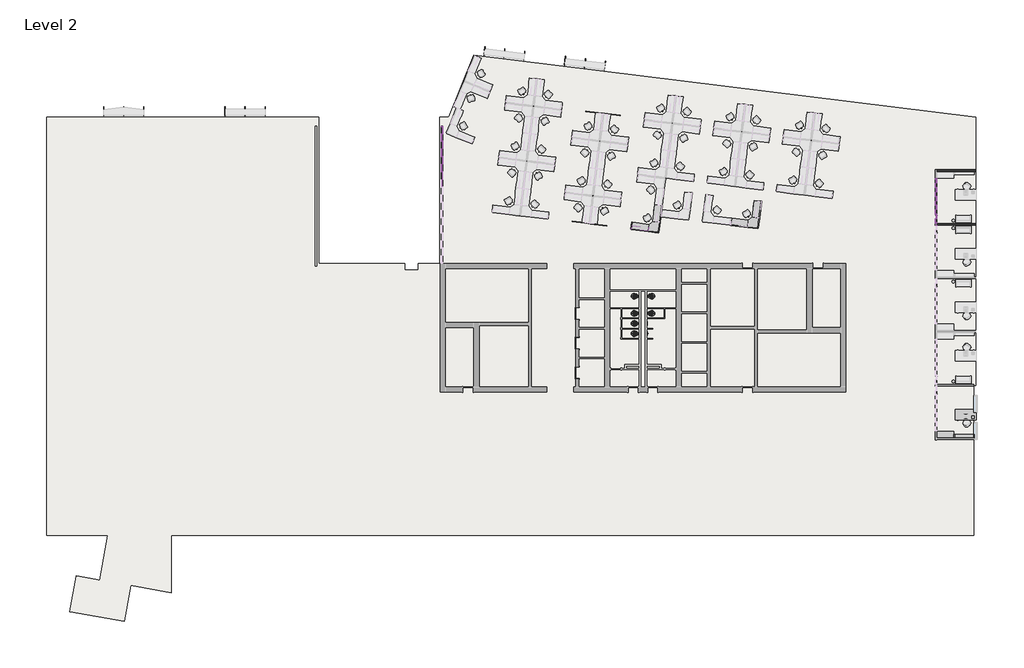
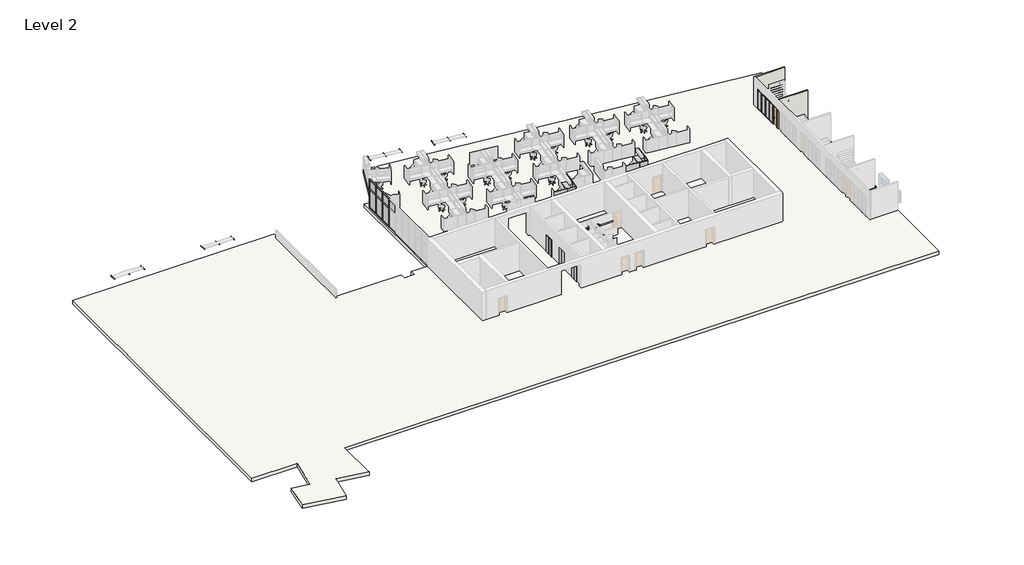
# One storey, part 4 of 7: 46 members, 16 plates, 12 beams, 8 flow terminals, 6 furniture elements, 3 proxies, 3 walls, 1 door, 1 slab.
"""IFC4 building model written with IfcOpenShell, lengths in millimetres."""

from ifc_helpers import new_model, si_unit, frame, origin, place, context, project, spatial, polyline, outline, extrude, faceted_brep, transform, mapped, element, save
from components import support_member_fadda9f7, support_member_90e03ff0, proxy_7fed659c, curtain_wall_sgl_glass_curtain_wall_sgl_glass_5192a5a3, flow_terminal_184afdea, flow_terminal_4365df9b, urinal_wall_3d_urinal_wall_3d_30f61b9e, furniture_894c625b, furniture_91cd4dc0, overhead_shelving_module_overhead_shelving_module_7dcda1b9, furniture_6d145fab, furniture_7b33082a, member_9597caa3, member_b2bde9e6, member_ee409385, member_7ffbafd8, member_47ea2df9, member_5507c937, member_0e55f5ff, member_6d48148e, member_7899ddbe, member_c64c2408, member_866a01fa, member_fbf8c6f0, member_13474e0d, member_d7472725, system_panel_glazed_f9de1280, system_panel_glazed_6896c6c0, system_panel_glazed_7f340023, system_panel_glazed_f79f5f4b, system_panel_glazed_02b69887, system_panel_glazed_e5c5d69c

model = new_model("IFC4")

# Units and contexts
model_context = context("Model", 3, world=origin())
ifc_project = project(units=[si_unit("LENGTHUNIT", "METRE", prefix="MILLI")], contexts=[model_context])

# Site, building, storey
site = spatial("IfcSite", under=ifc_project)
building = spatial("IfcBuilding", under=site)
storey = spatial("IfcBuildingStorey", under=building, Name="Level 2", Elevation=3657.6)

# Beams
placement = place(None, origin())
support_member_shape = support_member_fadda9f7(model_context)
element("IfcBeam", 1, ObjectType="Support Memeber : Support Member", at=placement, inside=storey, context=model_context, shape_type="MappedRepresentation", body=[
    mapped(support_member_shape, transform((-25691.1266175, 15089.8117514, 4572.0), x_axis=(0.9925461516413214, -0.12186934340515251, 0.0), y_axis=(0.12186934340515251, 0.9925461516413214, 0.0), z_axis=(0.0, 0.0, 1.0))),
])
element("IfcBeam", 2, ObjectType="Support Memeber : Support Member", at=placement, inside=storey, context=model_context, shape_type="MappedRepresentation", body=[
    mapped(support_member_shape, transform((-18430.453009, 14198.3131306, 4572.0), x_axis=(0.9925461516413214, -0.12186934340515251, 0.0), y_axis=(0.12186934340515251, 0.9925461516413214, 0.0), z_axis=(0.0, 0.0, 1.0))),
])
element("IfcBeam", 3, ObjectType="Support Memeber : Support Member", at=placement, inside=storey, context=model_context, shape_type="MappedRepresentation", body=[
    mapped(support_member_shape, transform((-48978.4123649, 10081.2896508, 4572.0), x_axis=(1.0, 0.0, 0.0), y_axis=(0.0, 1.0, 0.0), z_axis=(0.0, 0.0, 1.0))),
])
element("IfcBeam", 4, ObjectType="Support Memeber : Support Member", at=placement, inside=storey, context=model_context, shape_type="MappedRepresentation", body=[
    mapped(support_member_shape, transform((-27486.9048177, 15310.3055892, 4572.0), x_axis=(0.9925461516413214, -0.12186934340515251, 0.0), y_axis=(0.12186934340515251, 0.9925461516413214, 0.0), z_axis=(0.0, 0.0, 1.0))),
])
element("IfcBeam", 5, ObjectType="Support Memeber : Support Member", at=placement, inside=storey, context=model_context, shape_type="MappedRepresentation", body=[
    mapped(support_member_shape, transform((-20226.2312092, 14418.8069684, 4572.0), x_axis=(0.9925461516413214, -0.12186934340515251, 0.0), y_axis=(0.12186934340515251, 0.9925461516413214, 0.0), z_axis=(0.0, 0.0, 1.0))),
])
element("IfcBeam", 6, ObjectType="Support Memeber : Support Member", at=placement, inside=storey, context=model_context, shape_type="MappedRepresentation", body=[
    mapped(support_member_shape, transform((-50787.676546, 10081.2896508, 4572.0), x_axis=(1.0, 0.0, 0.0), y_axis=(0.0, 1.0, 0.0), z_axis=(0.0, 0.0, 1.0))),
])
element("IfcBeam", 7, ObjectType="Support Memeber : Support Member", at=placement, inside=storey, context=model_context, shape_type="MappedRepresentation", body=[
    mapped(support_member_shape, transform((-59903.5873649, 10081.2896508, 4572.0), x_axis=(1.0, 0.0, 0.0), y_axis=(0.0, 1.0, 0.0), z_axis=(0.0, 0.0, 1.0))),
])
element("IfcBeam", 8, ObjectType="Support Memeber : Support Member", at=placement, inside=storey, context=model_context, shape_type="MappedRepresentation", body=[
    mapped(support_member_shape, transform((-61712.851546, 10081.2896508, 4572.0), x_axis=(1.0, 0.0, 0.0), y_axis=(0.0, 1.0, 0.0), z_axis=(0.0, 0.0, 1.0))),
])
support_member_2_shape = support_member_90e03ff0(model_context)
element("IfcBeam", 9, ObjectType="Support Memeber : Support Member", at=placement, inside=storey, context=model_context, shape_type="MappedRepresentation", body=[
    mapped(support_member_2_shape, transform((-29258.4367411, 15527.8223586, 4572.0), x_axis=(-0.9925461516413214, 0.12186934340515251, 0.0), y_axis=(-0.12186934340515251, -0.9925461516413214, 0.0), z_axis=(0.0, 0.0, 1.0))),
])
element("IfcBeam", 10, ObjectType="Support Memeber : Support Member", at=placement, inside=storey, context=model_context, shape_type="MappedRepresentation", body=[
    mapped(support_member_2_shape, transform((-21997.7631326, 14636.3237377, 4572.0), x_axis=(-0.9925461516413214, 0.12186934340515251, 0.0), y_axis=(-0.12186934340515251, -0.9925461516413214, 0.0), z_axis=(0.0, 0.0, 1.0))),
])
element("IfcBeam", 11, ObjectType="Support Memeber : Support Member", at=placement, inside=storey, context=model_context, shape_type="MappedRepresentation", body=[
    mapped(support_member_2_shape, transform((-52572.5123649, 10081.2896508, 4572.0), x_axis=(-1.0, 0.0, 0.0), y_axis=(0.0, -1.0, 0.0), z_axis=(0.0, 0.0, 1.0))),
])
element("IfcBeam", 12, ObjectType="Support Memeber : Support Member", at=placement, inside=storey, context=model_context, shape_type="MappedRepresentation", body=[
    mapped(support_member_2_shape, transform((-63497.6873649, 10081.2896508, 4572.0), x_axis=(-1.0, 0.0, 0.0), y_axis=(0.0, -1.0, 0.0), z_axis=(0.0, 0.0, 1.0))),
])

# Proxies
proxy_shape = proxy_7fed659c(model_context)
element("IfcBuildingElementProxy", 13, Name="Elevator%20Door-Center[1] : 42\" x 84\"", ObjectType="Elevator%20Door-Center[1] : 42\" x 84\"", at=placement, inside=storey, context=model_context, shape_type="MappedRepresentation", body=[
    mapped(proxy_shape, transform((-20852.1285069, -7663.0747049, 3657.6), x_axis=(0.0, 1.0, 0.0), y_axis=(-1.0, 0.0, 0.0), z_axis=(0.0, 0.0, 1.0))),
])
element("IfcBuildingElementProxy", 14, Name="Elevator%20Door-Center[1] : 42\" x 84\"", ObjectType="Elevator%20Door-Center[1] : 42\" x 84\"", at=placement, inside=storey, context=model_context, shape_type="MappedRepresentation", body=[
    mapped(proxy_shape, transform((-20852.1285069, -10330.0747049, 3657.6), x_axis=(0.0, 1.0, 0.0), y_axis=(-1.0, 0.0, 0.0), z_axis=(0.0, 0.0, 1.0))),
])
element("IfcBuildingElementProxy", 15, Name="Elevator%20Door-Center[1] : 42\" x 84\"", ObjectType="Elevator%20Door-Center[1] : 42\" x 84\"", at=placement, inside=storey, context=model_context, shape_type="MappedRepresentation", body=[
    mapped(proxy_shape, transform((-20852.1285069, -12997.0747049, 3657.6), x_axis=(0.0, 1.0, 0.0), y_axis=(-1.0, 0.0, 0.0), z_axis=(0.0, 0.0, 1.0))),
])

# Door
curtain_wall_sgl_glass_curtain_wall_sgl_glass_shape = curtain_wall_sgl_glass_curtain_wall_sgl_glass_5192a5a3(model_context)
element("IfcDoor", 16, ObjectType="Curtain Wall Sgl Glass : Curtain Wall Sgl Glass", at=placement, inside=storey, context=model_context, shape_type="MappedRepresentation", body=[
    mapped(curtain_wall_sgl_glass_curtain_wall_sgl_glass_shape, transform((11449.2054088, 794.2100525, 3657.6), x_axis=(0.0, -1.0, 0.0), y_axis=(1.0, 0.0, 0.0), z_axis=(0.0, 0.0, 1.0))),
])

# Flow terminals
flow_terminal_shape = flow_terminal_184afdea(model_context)
element("IfcFlowTerminal", 17, ObjectType="Toilet-Commercial-Wall-3D : 15\" Seat Height", at=placement, inside=storey, context=model_context, shape_type="MappedRepresentation", body=[
    mapped(flow_terminal_shape, transform((-14687.1856498, -7335.0821954, 3657.6), x_axis=(0.0, -1.0, 0.0), y_axis=(1.0, 0.0, 0.0), z_axis=(0.0, 0.0, 1.0))),
])
element("IfcFlowTerminal", 18, ObjectType="Toilet-Commercial-Wall-3D : 15\" Seat Height", at=placement, inside=storey, context=model_context, shape_type="MappedRepresentation", body=[
    mapped(flow_terminal_shape, transform((-14687.1856498, -5795.2071954, 3657.6), x_axis=(0.0, -1.0, 0.0), y_axis=(1.0, 0.0, 0.0), z_axis=(0.0, 0.0, 1.0))),
])
flow_terminal_2_shape = flow_terminal_4365df9b(model_context)
element("IfcFlowTerminal", 19, ObjectType="Toilet-Commercial-Wall-3D : 15\" Seat Height", at=placement, inside=storey, context=model_context, shape_type="MappedRepresentation", body=[
    mapped(flow_terminal_2_shape, transform((-15195.1856498, -9163.8821954, 3657.6), x_axis=(0.0, -1.0, 0.0), y_axis=(1.0, 0.0, 0.0), z_axis=(0.0, 0.0, 1.0))),
])
element("IfcFlowTerminal", 20, ObjectType="Toilet-Commercial-Wall-3D : 15\" Seat Height", at=placement, inside=storey, context=model_context, shape_type="MappedRepresentation", body=[
    mapped(flow_terminal_2_shape, transform((-15195.1856498, -7335.0821954, 3657.6), x_axis=(0.0, -1.0, 0.0), y_axis=(1.0, 0.0, 0.0), z_axis=(0.0, 0.0, 1.0))),
])
element("IfcFlowTerminal", 21, ObjectType="Toilet-Commercial-Wall-3D : 15\" Seat Height", at=placement, inside=storey, context=model_context, shape_type="MappedRepresentation", body=[
    mapped(flow_terminal_2_shape, transform((-15195.1856498, -5795.2071954, 3657.6), x_axis=(0.0, -1.0, 0.0), y_axis=(1.0, 0.0, 0.0), z_axis=(0.0, 0.0, 1.0))),
])
element("IfcFlowTerminal", 22, ObjectType="Toilet-Commercial-Wall-3D : 15\" Seat Height", at=placement, inside=storey, context=model_context, shape_type="MappedRepresentation", body=[
    mapped(flow_terminal_2_shape, transform((-15195.1856498, -8249.4821954, 3657.6), x_axis=(0.0, -1.0, 0.0), y_axis=(1.0, 0.0, 0.0), z_axis=(0.0, 0.0, 1.0))),
])
urinal_wall_3d_urinal_wall_3d_shape = urinal_wall_3d_urinal_wall_3d_30f61b9e(model_context)
element("IfcFlowTerminal", 23, ObjectType="Urinal-Wall-3D : Urinal-Wall-3D", at=placement, inside=storey, context=model_context, shape_type="MappedRepresentation", body=[
    mapped(urinal_wall_3d_urinal_wall_3d_shape, transform((-14687.1856498, -9677.6027747, 3048.0), x_axis=(0.0, -1.0, 0.0), y_axis=(1.0, 0.0, 0.0), z_axis=(0.0, 0.0, 1.0))),
])
element("IfcFlowTerminal", 24, ObjectType="Urinal-Wall-3D : Urinal-Wall-3D", at=placement, inside=storey, context=model_context, shape_type="MappedRepresentation", body=[
    mapped(urinal_wall_3d_urinal_wall_3d_shape, transform((-14687.1856498, -8763.2027747, 3048.0), x_axis=(0.0, -1.0, 0.0), y_axis=(1.0, 0.0, 0.0), z_axis=(0.0, 0.0, 1.0))),
])

# Furniture
furniture_shape = furniture_894c625b(model_context)
element("IfcFurniture", 25, ObjectType="Credenza : 60\" x 24\"", at=placement, inside=storey, context=model_context, shape_type="MappedRepresentation", body=[
    mapped(furniture_shape, transform((12221.5111465, -18676.6574776, 3657.6), x_axis=(1.0, 0.0, 0.0), y_axis=(0.0, 1.0, 0.0), z_axis=(0.0, 0.0, 1.0))),
])
furniture_2_shape = furniture_91cd4dc0(model_context)
element("IfcFurniture", 26, ObjectType="Desk : 72\" x 36\"", at=placement, inside=storey, context=model_context, shape_type="MappedRepresentation", body=[
    mapped(furniture_2_shape, transform((13214.5054088, -16416.8858172, 3657.6), x_axis=(1.0, 0.0, 0.0), y_axis=(0.0, 1.0, 0.0), z_axis=(0.0, 0.0, 1.0))),
])
overhead_shelving_module_overhead_shelving_module_shape = overhead_shelving_module_overhead_shelving_module_7dcda1b9(model_context)
element("IfcFurniture", 27, ObjectType="Overhead Shelving Module : Overhead Shelving Module", at=placement, inside=storey, context=model_context, shape_type="MappedRepresentation", body=[
    mapped(overhead_shelving_module_overhead_shelving_module_shape, transform((-15035.7996968, -17.0868363, 3505.2), x_axis=(0.9925461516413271, -0.12186934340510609, 0.0), y_axis=(0.12186934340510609, 0.9925461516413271, 0.0), z_axis=(0.0, 0.0, 1.0))),
])
furniture_3_shape = furniture_6d145fab(model_context)
element("IfcFurniture", 28, ObjectType="Shelving : 96\" x 12\" x 84\"", at=placement, inside=storey, context=model_context, shape_type="MappedRepresentation", body=[
    mapped(furniture_3_shape, transform((13982.8554088, -19129.2771498, 3657.6), x_axis=(1.0, 0.0, 0.0), y_axis=(0.0, 1.0, 0.0), z_axis=(0.0, 0.0, 1.0))),
])
furniture_4_shape = furniture_7b33082a(model_context)
element("IfcFurniture", 29, ObjectType="Work Station Cubicle : 96\" x 96\"", at=placement, inside=storey, context=model_context, shape_type="MappedRepresentation", body=[
    mapped(furniture_4_shape, transform((-13005.6651945, -422.753661, 3657.6), x_axis=(0.12186934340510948, 0.9925461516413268, 0.0), y_axis=(-0.9925461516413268, 0.12186934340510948, 0.0), z_axis=(0.0, 0.0, 1.0))),
])
element("IfcFurniture", 30, ObjectType="Work Station Cubicle : 96\" x 96\"", at=placement, inside=storey, context=model_context, shape_type="MappedRepresentation", body=[
    mapped(furniture_4_shape, transform((-4053.6335534, -44.4423201, 3657.6), x_axis=(0.1218693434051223, 0.9925461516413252, 0.0), y_axis=(-0.9925461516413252, 0.1218693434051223, 0.0), z_axis=(0.0, 0.0, 1.0))),
])

# Members
member_shape = member_9597caa3(model_context)
element("IfcMember", 31, ObjectType="Rectangular Mullion : 2.5\" x 5\" rectangular", at=placement, inside=storey, context=model_context, shape_type="MappedRepresentation", body=[
    mapped(member_shape, transform((11449.2054088, 1195.5300525, 3721.1), x_axis=(0.0, 1.0, 0.0), y_axis=(1.0, 0.0, 0.0), z_axis=(0.0, 0.0, -1.0))),
])
element("IfcMember", 32, ObjectType="Rectangular Mullion : 2.5\" x 5\" rectangular", at=placement, inside=storey, context=model_context, shape_type="MappedRepresentation", body=[
    mapped(member_shape, transform((11449.2054088, 1998.1700525, 3721.1), x_axis=(0.0, 1.0, 0.0), y_axis=(1.0, 0.0, 0.0), z_axis=(0.0, 0.0, -1.0))),
])
element("IfcMember", 33, ObjectType="Rectangular Mullion : 2.5\" x 5\" rectangular", at=placement, inside=storey, context=model_context, shape_type="MappedRepresentation", body=[
    mapped(member_shape, transform((11449.2054088, 2800.8100525, 3721.1), x_axis=(0.0, 1.0, 0.0), y_axis=(1.0, 0.0, 0.0), z_axis=(0.0, 0.0, -1.0))),
])
element("IfcMember", 34, ObjectType="Rectangular Mullion : 2.5\" x 5\" rectangular", at=placement, inside=storey, context=model_context, shape_type="MappedRepresentation", body=[
    mapped(member_shape, transform((11449.2054088, 3603.4500525, 3721.1), x_axis=(0.0, 1.0, 0.0), y_axis=(1.0, 0.0, 0.0), z_axis=(0.0, 0.0, -1.0))),
])
element("IfcMember", 35, ObjectType="Rectangular Mullion : 2.5\" x 5\" rectangular", at=placement, inside=storey, context=model_context, shape_type="MappedRepresentation", body=[
    mapped(member_shape, transform((-33055.0142212, 7776.9452064, 3721.1), x_axis=(0.0, -1.0, 0.0), y_axis=(-1.0, 0.0, 0.0), z_axis=(0.0, 0.0, -1.0))),
])
element("IfcMember", 36, ObjectType="Rectangular Mullion : 2.5\" x 5\" rectangular", at=placement, inside=storey, context=model_context, shape_type="MappedRepresentation", body=[
    mapped(member_shape, transform((-33055.0142212, 6399.7007619, 3721.1), x_axis=(0.0, -1.0, 0.0), y_axis=(-1.0, 0.0, 0.0), z_axis=(0.0, 0.0, -1.0))),
])
element("IfcMember", 37, ObjectType="Rectangular Mullion : 2.5\" x 5\" rectangular", at=placement, inside=storey, context=model_context, shape_type="MappedRepresentation", body=[
    mapped(member_shape, transform((-33055.0142212, 5022.4563175, 3721.1), x_axis=(0.0, -1.0, 0.0), y_axis=(-1.0, 0.0, 0.0), z_axis=(0.0, 0.0, -1.0))),
])
member_2_shape = member_b2bde9e6(model_context)
element("IfcMember", 38, ObjectType="Rectangular Mullion : 2.5\" x 5\" rectangular", at=placement, inside=storey, context=model_context, shape_type="MappedRepresentation", body=[
    mapped(member_2_shape, transform((11449.2054088, 4437.8400525, 3721.1), x_axis=(0.0, 1.0, 0.0), y_axis=(1.0, 0.0, 0.0), z_axis=(0.0, 0.0, -1.0))),
])
element("IfcMember", 39, ObjectType="Rectangular Mullion : 2.5\" x 5\" rectangular", at=placement, inside=storey, context=model_context, shape_type="MappedRepresentation", body=[
    mapped(member_2_shape, transform((-33055.0142212, 9154.1896508, 6096.0), x_axis=(0.0, 1.0, 0.0), y_axis=(-1.0, 0.0, 0.0), z_axis=(0.0, 0.0, 1.0))),
])
member_3_shape = member_ee409385(model_context)
element("IfcMember", 40, ObjectType="Rectangular Mullion : 2.5\" x 5\" rectangular", at=placement, inside=storey, context=model_context, shape_type="MappedRepresentation", body=[
    mapped(member_3_shape, transform((11449.2054088, 361.1400525, 6096.0), x_axis=(0.0, -1.0, 0.0), y_axis=(1.0, 0.0, 0.0), z_axis=(0.0, 0.0, 1.0))),
])
element("IfcMember", 41, ObjectType="Rectangular Mullion : 2.5\" x 5\" rectangular", at=placement, inside=storey, context=model_context, shape_type="MappedRepresentation", body=[
    mapped(member_3_shape, transform((11449.2054088, 221.4400525, 6096.0), x_axis=(0.0, 1.0, 0.0), y_axis=(-1.0, 0.0, 0.0), z_axis=(0.0, 0.0, 1.0))),
])
member_4_shape = member_7ffbafd8(model_context)
element("IfcMember", 42, ObjectType="Rectangular Mullion : 2.5\" x 5\" rectangular", at=placement, inside=storey, context=model_context, shape_type="MappedRepresentation", body=[
    mapped(member_4_shape, transform((11449.2054088, 4437.8400525, 6197.6), x_axis=(0.0, 0.0, 1.0), y_axis=(1.0, 0.0, 0.0), z_axis=(0.0, 1.0, 0.0))),
])
element("IfcMember", 43, ObjectType="Rectangular Mullion : 2.5\" x 5\" rectangular", at=placement, inside=storey, context=model_context, shape_type="MappedRepresentation", body=[
    mapped(member_4_shape, transform((11449.2054088, 1195.5300525, 6197.6), x_axis=(0.0, 0.0, 1.0), y_axis=(1.0, 0.0, 0.0), z_axis=(0.0, 1.0, 0.0))),
])
element("IfcMember", 44, ObjectType="Rectangular Mullion : 2.5\" x 5\" rectangular", at=placement, inside=storey, context=model_context, shape_type="MappedRepresentation", body=[
    mapped(member_4_shape, transform((11449.2054088, 1163.7800525, 3657.6), x_axis=(0.0, 0.0, -1.0), y_axis=(1.0, 0.0, 0.0), z_axis=(0.0, -1.0, 0.0))),
])
member_5_shape = member_47ea2df9(model_context)
element("IfcMember", 45, ObjectType="Rectangular Mullion : 2.5\" x 5\" rectangular", at=placement, inside=storey, context=model_context, shape_type="MappedRepresentation", body=[
    mapped(member_5_shape, transform((11449.2054088, 1998.1700525, 6096.0), x_axis=(0.0, 0.0, 1.0), y_axis=(1.0, 0.0, 0.0), z_axis=(0.0, 1.0, 0.0))),
])
element("IfcMember", 46, ObjectType="Rectangular Mullion : 2.5\" x 5\" rectangular", at=placement, inside=storey, context=model_context, shape_type="MappedRepresentation", body=[
    mapped(member_5_shape, transform((11449.2054088, 2800.8100525, 6096.0), x_axis=(0.0, 0.0, 1.0), y_axis=(1.0, 0.0, 0.0), z_axis=(0.0, 1.0, 0.0))),
])
element("IfcMember", 47, ObjectType="Rectangular Mullion : 2.5\" x 5\" rectangular", at=placement, inside=storey, context=model_context, shape_type="MappedRepresentation", body=[
    mapped(member_5_shape, transform((11449.2054088, 3603.4500525, 6096.0), x_axis=(0.0, 0.0, 1.0), y_axis=(1.0, 0.0, 0.0), z_axis=(0.0, 1.0, 0.0))),
])
member_6_shape = member_5507c937(model_context)
element("IfcMember", 48, ObjectType="Rectangular Mullion : 2.5\" x 5\" rectangular", at=placement, inside=storey, context=model_context, shape_type="MappedRepresentation", body=[
    mapped(member_6_shape, transform((11449.2054088, 1998.1700525, 6197.6), x_axis=(0.0, 0.0, 1.0), y_axis=(1.0, 0.0, 0.0), z_axis=(0.0, 1.0, 0.0))),
])
element("IfcMember", 49, ObjectType="Rectangular Mullion : 2.5\" x 5\" rectangular", at=placement, inside=storey, context=model_context, shape_type="MappedRepresentation", body=[
    mapped(member_6_shape, transform((11449.2054088, 2800.8100525, 6197.6), x_axis=(0.0, 0.0, 1.0), y_axis=(1.0, 0.0, 0.0), z_axis=(0.0, 1.0, 0.0))),
])
element("IfcMember", 50, ObjectType="Rectangular Mullion : 2.5\" x 5\" rectangular", at=placement, inside=storey, context=model_context, shape_type="MappedRepresentation", body=[
    mapped(member_6_shape, transform((11449.2054088, 3603.4500525, 6197.6), x_axis=(0.0, 0.0, 1.0), y_axis=(1.0, 0.0, 0.0), z_axis=(0.0, 1.0, 0.0))),
])
element("IfcMember", 51, ObjectType="Rectangular Mullion : 2.5\" x 5\" rectangular", at=placement, inside=storey, context=model_context, shape_type="MappedRepresentation", body=[
    mapped(member_6_shape, transform((11449.2054088, 1998.1700525, 3657.6), x_axis=(0.0, 0.0, -1.0), y_axis=(1.0, 0.0, 0.0), z_axis=(0.0, -1.0, 0.0))),
])
element("IfcMember", 52, ObjectType="Rectangular Mullion : 2.5\" x 5\" rectangular", at=placement, inside=storey, context=model_context, shape_type="MappedRepresentation", body=[
    mapped(member_6_shape, transform((11449.2054088, 2800.8100525, 3657.6), x_axis=(0.0, 0.0, -1.0), y_axis=(1.0, 0.0, 0.0), z_axis=(0.0, -1.0, 0.0))),
])
element("IfcMember", 53, ObjectType="Rectangular Mullion : 2.5\" x 5\" rectangular", at=placement, inside=storey, context=model_context, shape_type="MappedRepresentation", body=[
    mapped(member_4_shape, transform((11449.2054088, 3603.4500525, 3657.6), x_axis=(0.0, 0.0, -1.0), y_axis=(1.0, 0.0, 0.0), z_axis=(0.0, -1.0, 0.0))),
])
member_7_shape = member_0e55f5ff(model_context)
element("IfcMember", 54, ObjectType="Rectangular Mullion : 2.5\" x 5\" rectangular", at=placement, inside=storey, context=model_context, shape_type="MappedRepresentation", body=[
    mapped(member_7_shape, transform((11449.2054088, 4374.3400525, 6096.0), x_axis=(0.0, 0.0, 1.0), y_axis=(1.0, 0.0, 0.0), z_axis=(0.0, 1.0, 0.0))),
])
element("IfcMember", 55, ObjectType="Rectangular Mullion : 2.5\" x 5\" rectangular", at=placement, inside=storey, context=model_context, shape_type="MappedRepresentation", body=[
    mapped(member_7_shape, transform((11449.2054088, 1195.5300525, 6096.0), x_axis=(0.0, 0.0, 1.0), y_axis=(1.0, 0.0, 0.0), z_axis=(0.0, 1.0, 0.0))),
])
member_8_shape = member_6d48148e(model_context)
element("IfcMember", 56, ObjectType="Rectangular Mullion : 2.5\" x 5\" rectangular", at=placement, inside=storey, context=model_context, shape_type="MappedRepresentation", body=[
    mapped(member_8_shape, transform((11449.2054088, 1195.5300525, 6127.75), x_axis=(0.0, 1.0, 0.0), y_axis=(1.0, 0.0, 0.0), z_axis=(0.0, 0.0, -1.0))),
])
element("IfcMember", 57, ObjectType="Rectangular Mullion : 2.5\" x 5\" rectangular", at=placement, inside=storey, context=model_context, shape_type="MappedRepresentation", body=[
    mapped(member_8_shape, transform((11449.2054088, 1998.1700525, 6127.75), x_axis=(0.0, 1.0, 0.0), y_axis=(1.0, 0.0, 0.0), z_axis=(0.0, 0.0, -1.0))),
])
element("IfcMember", 58, ObjectType="Rectangular Mullion : 2.5\" x 5\" rectangular", at=placement, inside=storey, context=model_context, shape_type="MappedRepresentation", body=[
    mapped(member_8_shape, transform((11449.2054088, 2800.8100525, 6127.75), x_axis=(0.0, 1.0, 0.0), y_axis=(1.0, 0.0, 0.0), z_axis=(0.0, 0.0, -1.0))),
])
element("IfcMember", 59, ObjectType="Rectangular Mullion : 2.5\" x 5\" rectangular", at=placement, inside=storey, context=model_context, shape_type="MappedRepresentation", body=[
    mapped(member_8_shape, transform((11449.2054088, 3603.4500525, 6127.75), x_axis=(0.0, 1.0, 0.0), y_axis=(1.0, 0.0, 0.0), z_axis=(0.0, 0.0, -1.0))),
])
member_9_shape = member_7899ddbe(model_context)
element("IfcMember", 60, ObjectType="Rectangular Mullion : 2.5\" x 5\" rectangular", at=placement, inside=storey, context=model_context, shape_type="MappedRepresentation", body=[
    mapped(member_9_shape, transform((11449.2054088, 4437.8400525, 6096.0), x_axis=(0.0, 1.0, 0.0), y_axis=(1.0, 0.0, 0.0), z_axis=(0.0, 0.0, -1.0))),
])
element("IfcMember", 61, ObjectType="Rectangular Mullion : 2.5\" x 5\" rectangular", at=placement, inside=storey, context=model_context, shape_type="MappedRepresentation", body=[
    mapped(member_9_shape, transform((11449.2054088, 361.1400525, 6134.1), x_axis=(0.0, -1.0, 0.0), y_axis=(1.0, 0.0, 0.0), z_axis=(0.0, 0.0, 1.0))),
])
element("IfcMember", 62, ObjectType="Rectangular Mullion : 2.5\" x 5\" rectangular", at=placement, inside=storey, context=model_context, shape_type="MappedRepresentation", body=[
    mapped(member_9_shape, transform((11449.2054088, 221.4400525, 6134.1), x_axis=(0.0, 1.0, 0.0), y_axis=(-1.0, 0.0, 0.0), z_axis=(0.0, 0.0, 1.0))),
])
member_10_shape = member_c64c2408(model_context)
element("IfcMember", 63, ObjectType="Rectangular Mullion : 2.5\" x 5\" rectangular", at=placement, inside=storey, context=model_context, shape_type="MappedRepresentation", body=[
    mapped(member_10_shape, transform((-33055.0142212, 9154.1896508, 3657.6), x_axis=(0.0, 0.0, -1.0), y_axis=(-1.0, 0.0, 0.0), z_axis=(0.0, 1.0, 0.0))),
])
element("IfcMember", 64, ObjectType="Rectangular Mullion : 2.5\" x 5\" rectangular", at=placement, inside=storey, context=model_context, shape_type="MappedRepresentation", body=[
    mapped(member_10_shape, transform((-33055.0142212, 7776.9452064, 7315.2), x_axis=(0.0, 0.0, 1.0), y_axis=(-1.0, 0.0, 0.0), z_axis=(0.0, -1.0, 0.0))),
])
element("IfcMember", 65, ObjectType="Rectangular Mullion : 2.5\" x 5\" rectangular", at=placement, inside=storey, context=model_context, shape_type="MappedRepresentation", body=[
    mapped(member_10_shape, transform((-33055.0142212, 6399.7007619, 7315.2), x_axis=(0.0, 0.0, 1.0), y_axis=(-1.0, 0.0, 0.0), z_axis=(0.0, -1.0, 0.0))),
])
element("IfcMember", 66, ObjectType="Rectangular Mullion : 2.5\" x 5\" rectangular", at=placement, inside=storey, context=model_context, shape_type="MappedRepresentation", body=[
    mapped(member_10_shape, transform((-33055.0142212, 5022.4563175, 7315.2), x_axis=(0.0, 0.0, 1.0), y_axis=(-1.0, 0.0, 0.0), z_axis=(0.0, -1.0, 0.0))),
])
element("IfcMember", 67, ObjectType="Rectangular Mullion : 2.5\" x 5\" rectangular", at=placement, inside=storey, context=model_context, shape_type="MappedRepresentation", body=[
    mapped(member_10_shape, transform((-33055.0142212, 7776.9452064, 3657.6), x_axis=(0.0, 0.0, -1.0), y_axis=(-1.0, 0.0, 0.0), z_axis=(0.0, 1.0, 0.0))),
])
element("IfcMember", 68, ObjectType="Rectangular Mullion : 2.5\" x 5\" rectangular", at=placement, inside=storey, context=model_context, shape_type="MappedRepresentation", body=[
    mapped(member_10_shape, transform((-33055.0142212, 6399.7007619, 3657.6), x_axis=(0.0, 0.0, -1.0), y_axis=(-1.0, 0.0, 0.0), z_axis=(0.0, 1.0, 0.0))),
])
element("IfcMember", 69, ObjectType="Rectangular Mullion : 2.5\" x 5\" rectangular", at=placement, inside=storey, context=model_context, shape_type="MappedRepresentation", body=[
    mapped(member_10_shape, transform((-33055.0142212, 5022.4563175, 3657.6), x_axis=(0.0, 0.0, -1.0), y_axis=(-1.0, 0.0, 0.0), z_axis=(0.0, 1.0, 0.0))),
])
member_11_shape = member_866a01fa(model_context)
element("IfcMember", 70, ObjectType="Rectangular Mullion : 2.5\" x 5\" rectangular", at=placement, inside=storey, context=model_context, shape_type="MappedRepresentation", body=[
    mapped(member_11_shape, transform((-33055.0142212, 7776.9452064, 6127.75), x_axis=(0.0, -1.0, 0.0), y_axis=(-1.0, 0.0, 0.0), z_axis=(0.0, 0.0, -1.0))),
])
element("IfcMember", 71, ObjectType="Rectangular Mullion : 2.5\" x 5\" rectangular", at=placement, inside=storey, context=model_context, shape_type="MappedRepresentation", body=[
    mapped(member_11_shape, transform((-33055.0142212, 6399.7007619, 6127.75), x_axis=(0.0, -1.0, 0.0), y_axis=(-1.0, 0.0, 0.0), z_axis=(0.0, 0.0, -1.0))),
])
element("IfcMember", 72, ObjectType="Rectangular Mullion : 2.5\" x 5\" rectangular", at=placement, inside=storey, context=model_context, shape_type="MappedRepresentation", body=[
    mapped(member_11_shape, transform((-33055.0142212, 5022.4563175, 6127.75), x_axis=(0.0, -1.0, 0.0), y_axis=(-1.0, 0.0, 0.0), z_axis=(0.0, 0.0, -1.0))),
])
member_12_shape = member_fbf8c6f0(model_context)
element("IfcMember", 73, ObjectType="Rectangular Mullion : 2.5\" x 5\" rectangular", at=placement, inside=storey, context=model_context, shape_type="MappedRepresentation", body=[
    mapped(member_12_shape, transform((-33055.0142212, 7776.9452064, 6096.0), x_axis=(0.0, 0.0, 1.0), y_axis=(-1.0, 0.0, 0.0), z_axis=(0.0, -1.0, 0.0))),
])
member_13_shape = member_13474e0d(model_context)
element("IfcMember", 74, ObjectType="Rectangular Mullion : 2.5\" x 5\" rectangular", at=placement, inside=storey, context=model_context, shape_type="MappedRepresentation", body=[
    mapped(member_13_shape, transform((-33055.0142212, 6399.7007619, 6096.0), x_axis=(0.0, 0.0, 1.0), y_axis=(-1.0, 0.0, 0.0), z_axis=(0.0, -1.0, 0.0))),
])
element("IfcMember", 75, ObjectType="Rectangular Mullion : 2.5\" x 5\" rectangular", at=placement, inside=storey, context=model_context, shape_type="MappedRepresentation", body=[
    mapped(member_13_shape, transform((-33055.0142212, 5022.4563175, 6096.0), x_axis=(0.0, 0.0, 1.0), y_axis=(-1.0, 0.0, 0.0), z_axis=(0.0, -1.0, 0.0))),
])
member_14_shape = member_d7472725(model_context)
element("IfcMember", 76, ObjectType="Rectangular Mullion : 2.5\" x 5\" rectangular", at=placement, inside=storey, context=model_context, shape_type="MappedRepresentation", body=[
    mapped(member_14_shape, transform((-33055.0142212, 9154.1896508, 7251.7), x_axis=(0.0, 1.0, 0.0), y_axis=(-1.0, 0.0, 0.0), z_axis=(0.0, 0.0, 1.0))),
])

# Plates
system_panel_glazed_shape = system_panel_glazed_f9de1280(model_context)
element("IfcPlate", 77, ObjectType="System Panel : Glazed", at=placement, inside=storey, context=model_context, shape_type="MappedRepresentation", body=[
    mapped(system_panel_glazed_shape, transform((11449.2054088, 1596.8500525, 3721.1), x_axis=(0.0, 1.0, 0.0), y_axis=(-1.0, 0.0, 0.0), z_axis=(0.0, 0.0, 1.0))),
])
element("IfcPlate", 78, ObjectType="System Panel : Glazed", at=placement, inside=storey, context=model_context, shape_type="MappedRepresentation", body=[
    mapped(system_panel_glazed_shape, transform((11449.2054088, 2399.4900525, 3721.1), x_axis=(0.0, 1.0, 0.0), y_axis=(-1.0, 0.0, 0.0), z_axis=(0.0, 0.0, 1.0))),
])
element("IfcPlate", 79, ObjectType="System Panel : Glazed", at=placement, inside=storey, context=model_context, shape_type="MappedRepresentation", body=[
    mapped(system_panel_glazed_shape, transform((11449.2054088, 3202.1300525, 3721.1), x_axis=(0.0, 1.0, 0.0), y_axis=(-1.0, 0.0, 0.0), z_axis=(0.0, 0.0, 1.0))),
])
element("IfcPlate", 80, ObjectType="System Panel : Glazed", at=placement, inside=storey, context=model_context, shape_type="MappedRepresentation", body=[
    mapped(system_panel_glazed_shape, transform((11449.2054088, 4004.7700525, 3721.1), x_axis=(0.0, 1.0, 0.0), y_axis=(-1.0, 0.0, 0.0), z_axis=(0.0, 0.0, 1.0))),
])
system_panel_glazed_2_shape = system_panel_glazed_6896c6c0(model_context)
element("IfcPlate", 81, ObjectType="System Panel : Glazed", at=placement, inside=storey, context=model_context, shape_type="MappedRepresentation", body=[
    mapped(system_panel_glazed_2_shape, transform((11449.2054088, 794.2100525, 6127.75), x_axis=(0.0, 1.0, 0.0), y_axis=(-1.0, 0.0, 0.0), z_axis=(0.0, 0.0, 1.0))),
])
element("IfcPlate", 82, ObjectType="System Panel : Glazed", at=placement, inside=storey, context=model_context, shape_type="MappedRepresentation", body=[
    mapped(system_panel_glazed_2_shape, transform((11449.2054088, 1596.8500525, 6127.75), x_axis=(0.0, 1.0, 0.0), y_axis=(-1.0, 0.0, 0.0), z_axis=(0.0, 0.0, 1.0))),
])
element("IfcPlate", 83, ObjectType="System Panel : Glazed", at=placement, inside=storey, context=model_context, shape_type="MappedRepresentation", body=[
    mapped(system_panel_glazed_2_shape, transform((11449.2054088, 2399.4900525, 6127.75), x_axis=(0.0, 1.0, 0.0), y_axis=(-1.0, 0.0, 0.0), z_axis=(0.0, 0.0, 1.0))),
])
element("IfcPlate", 84, ObjectType="System Panel : Glazed", at=placement, inside=storey, context=model_context, shape_type="MappedRepresentation", body=[
    mapped(system_panel_glazed_2_shape, transform((11449.2054088, 3202.1300525, 6127.75), x_axis=(0.0, 1.0, 0.0), y_axis=(-1.0, 0.0, 0.0), z_axis=(0.0, 0.0, 1.0))),
])
element("IfcPlate", 85, ObjectType="System Panel : Glazed", at=placement, inside=storey, context=model_context, shape_type="MappedRepresentation", body=[
    mapped(system_panel_glazed_2_shape, transform((11449.2054088, 4004.7700525, 6127.75), x_axis=(0.0, 1.0, 0.0), y_axis=(-1.0, 0.0, 0.0), z_axis=(0.0, 0.0, 1.0))),
])
system_panel_glazed_3_shape = system_panel_glazed_7f340023(model_context)
element("IfcPlate", 86, ObjectType="System Panel : Glazed", at=placement, inside=storey, context=model_context, shape_type="MappedRepresentation", body=[
    mapped(system_panel_glazed_3_shape, transform((-33055.0142212, 8449.6924286, 3721.1), x_axis=(0.0, -1.0, 0.0), y_axis=(1.0, 0.0, 0.0), z_axis=(0.0, 0.0, 1.0))),
])
system_panel_glazed_4_shape = system_panel_glazed_f79f5f4b(model_context)
element("IfcPlate", 87, ObjectType="System Panel : Glazed", at=placement, inside=storey, context=model_context, shape_type="MappedRepresentation", body=[
    mapped(system_panel_glazed_4_shape, transform((-33055.0142212, 7088.3229841, 3721.1), x_axis=(0.0, -1.0, 0.0), y_axis=(1.0, 0.0, 0.0), z_axis=(0.0, 0.0, 1.0))),
])
element("IfcPlate", 88, ObjectType="System Panel : Glazed", at=placement, inside=storey, context=model_context, shape_type="MappedRepresentation", body=[
    mapped(system_panel_glazed_4_shape, transform((-33055.0142212, 5711.0785397, 3721.1), x_axis=(0.0, -1.0, 0.0), y_axis=(1.0, 0.0, 0.0), z_axis=(0.0, 0.0, 1.0))),
])
system_panel_glazed_5_shape = system_panel_glazed_02b69887(model_context)
element("IfcPlate", 89, ObjectType="System Panel : Glazed", at=placement, inside=storey, context=model_context, shape_type="MappedRepresentation", body=[
    mapped(system_panel_glazed_5_shape, transform((-33055.0142212, 8449.6924286, 6127.75), x_axis=(0.0, -1.0, 0.0), y_axis=(1.0, 0.0, 0.0), z_axis=(0.0, 0.0, 1.0))),
])
system_panel_glazed_6_shape = system_panel_glazed_e5c5d69c(model_context)
element("IfcPlate", 90, ObjectType="System Panel : Glazed", at=placement, inside=storey, context=model_context, shape_type="MappedRepresentation", body=[
    mapped(system_panel_glazed_6_shape, transform((-33055.0142212, 7088.3229841, 6127.75), x_axis=(0.0, -1.0, 0.0), y_axis=(1.0, 0.0, 0.0), z_axis=(0.0, 0.0, 1.0))),
])
element("IfcPlate", 91, ObjectType="System Panel : Glazed", at=placement, inside=storey, context=model_context, shape_type="MappedRepresentation", body=[
    mapped(system_panel_glazed_6_shape, transform((-33055.0142212, 5711.0785397, 6127.75), x_axis=(0.0, -1.0, 0.0), y_axis=(1.0, 0.0, 0.0), z_axis=(0.0, 0.0, 1.0))),
])
element("IfcPlate", 92, ObjectType="System Panel : Glazed", at=placement, inside=storey, context=model_context, shape_type="MappedRepresentation", body=[
    mapped(system_panel_glazed_6_shape, transform((-33055.0142212, 4333.8340952, 6127.75), x_axis=(0.0, -1.0, 0.0), y_axis=(1.0, 0.0, 0.0), z_axis=(0.0, 0.0, 1.0))),
])

# Slab
element("IfcSlab", 93, ObjectType="Steel Bar Joist 14\" - Concrete", at=placement, inside=storey, context=model_context, shape_type="Brep", body=[
    faceted_brep([(-57415.8125003, -27735.220667, 3222.625), (-57415.8125003, -32574.9459603, 3222.625), (-57415.8125003, -32919.911766, 3222.625), (-57428.5125003, -32917.6724134, 3222.625), (-61087.9334678, -32272.417763, 3222.625), (-61655.8064208, -35492.9853173, 3222.625), (-61658.0117526, -35505.4923758, 3222.625), (-66538.8913179, -34644.8616188, 3222.625), (-66551.3983764, -34642.656287, 3222.625), (-65983.5254234, -31422.0887327, 3222.625), (-65981.3200915, -31409.5816742, 3222.625), (-64214.6980836, -31721.084799, 3222.625), (-63880.1342697, -31780.0774261, 3222.625), (-63168.1978494, -27742.4853492, 3222.625), (-63513.1636551, -27742.4853492, 3222.625), (-68660.7599961, -27742.4853492, 3222.625), (-68660.7599961, -27729.7853492, 3222.625), (-68660.7599961, 9954.2896508, 3222.625), (-44161.1642212, 9954.2896508, 3222.625), (-44161.1642212, -3241.0103492, 3222.625), (-36382.778433, -3241.0103492, 3222.625), (-36382.778433, -3850.6103492, 3222.625), (-35163.578433, -3850.6103492, 3222.625), (-35163.578433, -3241.0103492, 3222.625), (-33226.4642212, -3241.0103492, 3222.625), (-33226.4642212, 9954.2896508, 3222.625), (-32787.8895294, 9954.2896508, 3222.625), (-32421.4843139, 9954.2896508, 3222.625), (-30175.817983, 15512.5088637, 3222.625), (-30162.7679787, 15510.9065247, 3222.625), (15043.3054088, 9960.2986536, 3222.625), (15043.3054088, -14142.3728492, 3222.625), (15043.3054088, -14218.4266737, 3222.625), (14830.5804088, -14218.4266737, 3222.625), (14830.5804088, -27729.7853492, 3222.625), (14830.5804088, -27735.220667, 3222.625), (-57076.0875003, -27735.220667, 3222.625), (-57415.8125003, -27735.220667, 3657.6), (-57076.0875003, -27735.220667, 3657.6), (14830.5804088, -27735.220667, 3657.6), (14830.5804088, -27729.7853492, 3657.6), (14830.5804088, -14218.4266737, 3657.6), (15043.3054088, -14218.4266737, 3657.6), (15043.3054088, -14142.3728492, 3657.6), (15043.3054088, 9960.2986536, 3657.6), (-30162.7679787, 15510.9065247, 3657.6), (-30175.817983, 15512.5088637, 3657.6), (-32421.4843139, 9954.2896508, 3657.6), (-32787.8895294, 9954.2896508, 3657.6), (-33226.4642212, 9954.2896508, 3657.6), (-33226.4642212, -3241.0103492, 3657.6), (-35163.578433, -3241.0103492, 3657.6), (-35163.578433, -3850.6103492, 3657.6), (-36382.778433, -3850.6103492, 3657.6), (-36382.778433, -3241.0103492, 3657.6), (-44161.1642212, -3241.0103492, 3657.6), (-44161.1642212, 9954.2896508, 3657.6), (-68660.7599961, 9954.2896508, 3657.6), (-68660.7599961, -27729.7853492, 3657.6), (-68660.7599961, -27742.4853492, 3657.6), (-63513.1636551, -27742.4853492, 3657.6), (-63168.1978494, -27742.4853492, 3657.6), (-63880.1342697, -31780.0774261, 3657.6), (-64214.6980836, -31721.084799, 3657.6), (-65981.3200915, -31409.5816742, 3657.6), (-65983.5254234, -31422.0887327, 3657.6), (-66551.3983764, -34642.656287, 3657.6), (-66538.8913179, -34644.8616188, 3657.6), (-61658.0117526, -35505.4923758, 3657.6), (-61655.8064208, -35492.9853173, 3657.6), (-61087.9334678, -32272.417763, 3657.6), (-57428.5125003, -32917.6724134, 3657.6), (-57415.8125003, -32919.911766, 3657.6), (-57415.8125003, -32574.9459603, 3657.6)], [[[0, 1, 2, 3, 4, 5, 6, 7, 8, 9, 10, 11, 12, 13, 14, 15, 16, 17, 18, 19, 20, 21, 22, 23, 24, 25, 26, 27, 28, 29, 30, 31, 32, 33, 34, 35, 36]], [[37, 38, 39, 40, 41, 42, 43, 44, 45, 46, 47, 48, 49, 50, 51, 52, 53, 54, 55, 56, 57, 58, 59, 60, 61, 62, 63, 64, 65, 66, 67, 68, 69, 70, 71, 72, 73]], [[17, 16, 15, 59, 58, 57]], [[32, 31, 30, 44, 43, 42]], [[0, 36, 35, 39, 38, 37]], [[2, 1, 0, 37, 73, 72]], [[4, 3, 2, 72, 71, 70]], [[6, 5, 4, 70, 69, 68]], [[8, 7, 6, 68, 67, 66]], [[10, 9, 8, 66, 65, 64]], [[12, 11, 10, 64, 63, 62]], [[13, 12, 62, 61]], [[15, 14, 13, 61, 60, 59]], [[28, 27, 47, 46]], [[30, 29, 28, 46, 45, 44]], [[33, 32, 42, 41]], [[35, 34, 33, 41, 40, 39]], [[18, 17, 57, 56]], [[19, 18, 56, 55]], [[24, 23, 51, 50]], [[25, 24, 50, 49]], [[27, 26, 25, 49, 48, 47]], [[20, 19, 55, 54]], [[21, 20, 54, 53]], [[22, 21, 53, 52]], [[23, 22, 52, 51]]]),
])

# Walls
element("IfcWall", 94, ObjectType="Interior - 5 1/2\" Partition (1-hr)", at=placement, inside=storey, context=model_context, shape_type="SweptSolid", body=[
    extrude(outline(polyline([(11519.0554088, 5195.6443531), (15043.3054088, 5195.6443531), (15043.3054088, 5055.9443531), (11519.0554088, 5055.9443531), (11519.0554088, 5195.6443531)])), frame((0.0, 0.0, 3657.6), z_axis=(0.0, 0.0, 1.0), x_axis=(1.0, 0.0, 0.0)), (0.0, 0.0, 1.0), 3657.6),
])
element("IfcWall", 95, ObjectType="Interior - 5 1/2\" Partition (1-hr)", at=placement, inside=storey, context=model_context, shape_type="SweptSolid", body=[
    extrude(outline(polyline([(11519.0554088, 361.1400525), (15043.3054088, 361.1400525), (15043.3054088, 221.4400525), (11519.0554088, 221.4400525), (11519.0554088, 361.1400525)])), frame((0.0, 0.0, 3657.6), z_axis=(0.0, 0.0, 1.0), x_axis=(1.0, 0.0, 0.0)), (0.0, 0.0, 1.0), 3657.6),
])
element("IfcWall", 96, ObjectType="Interior - 5 1/2\" Partition (1-hr)", at=placement, inside=storey, context=model_context, shape_type="SweptSolid", body=[
    extrude(outline(polyline([(11519.0554088, 361.1400525), (15043.3054088, 361.1400525), (15043.3054088, 221.4400525), (11519.0554088, 221.4400525), (11519.0554088, 361.1400525)])), frame((0.0, 0.0, 3657.6), z_axis=(0.0, 0.0, 1.0), x_axis=(1.0, 0.0, 0.0)), (0.0, 0.0, 1.0), 3657.6),
])

save(model, "model.ifc")
